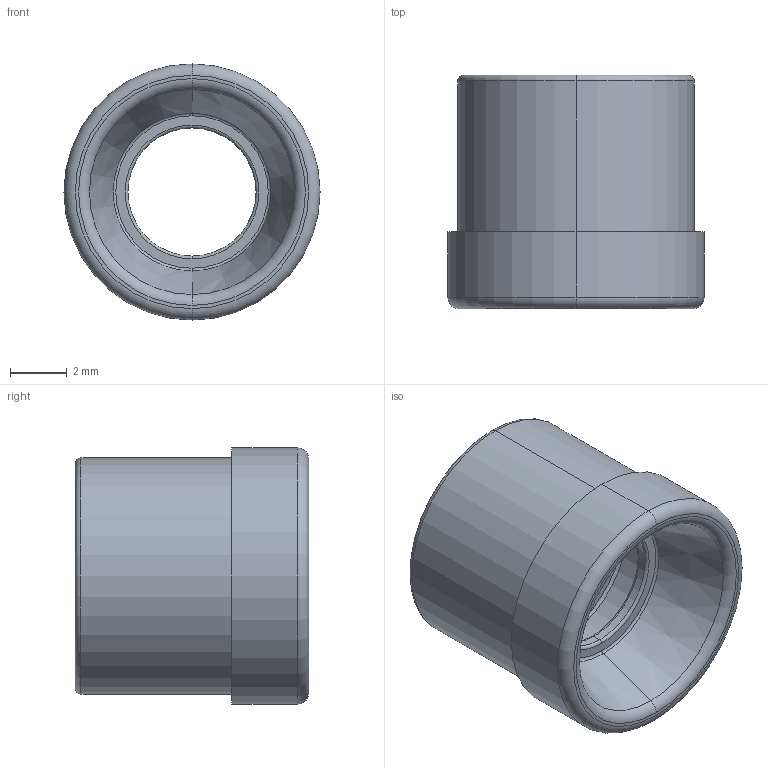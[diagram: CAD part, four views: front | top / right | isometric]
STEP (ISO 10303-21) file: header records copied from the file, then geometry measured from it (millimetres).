
FILE_DESCRIPTION (( 'STEP AP203' ), '1' );
FILE_NAME ('71_09--A_(ind_A).STEP', '2016-08-24T08:53:01', ( '' ), ( '' ), 'SwSTEP 2.0', 'SolidWorks 2016', '' );
FILE_SCHEMA (( 'CONFIG_CONTROL_DESIGN' ));
Length unit declared in the file: millimetre
Products named in the file (1): 71_09--A_(ind_A)
Bounding box: 9 x 8.2 x 9 mm (x, y, z)
Volume: 246.9 mm3; surface area: 453 mm2
Topology: 1 solids, 1 shells, 38 faces, 76 edges, 44 vertices
Faces by surface type: torus 20, cylinder 10, plane 6, cone 2
Entity records: 1085 total; most frequent: DIRECTION 218, CARTESIAN_POINT 159, ORIENTED_EDGE 152, AXIS2_PLACEMENT_3D 103, EDGE_CURVE 76, CIRCLE 64, VERTEX_POINT 44, EDGE_LOOP 44
